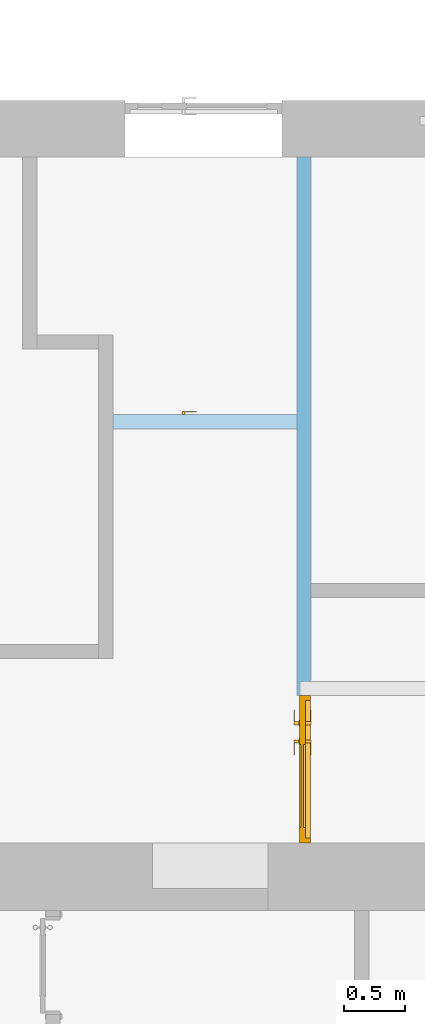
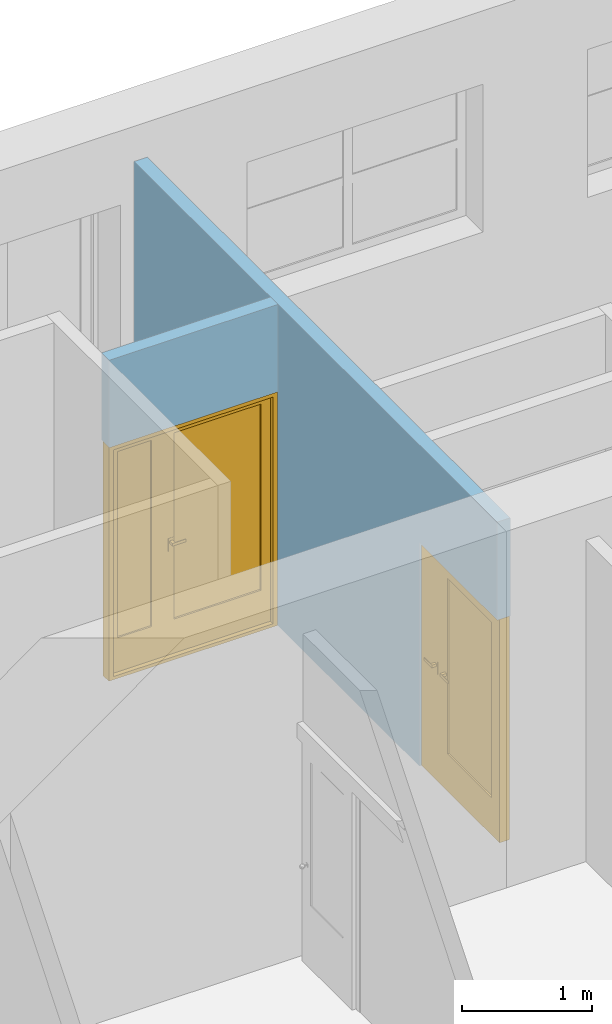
# One storey, part 37 of 49: 2 doors, 3 openings, plus 2 elements that do not belong to this part.
"""IFC2X3 building model written with IfcOpenShell, lengths in millimetres."""

from ifc_helpers import new_model, entity, si_unit, converted_unit, derived_unit, direction, frame, frame_2d, origin, place, context, subcontext, project, spatial, rectangle, extrude, faceted_brep, source, transform, mapped, material, material_list, layer, layer_set, layer_usage, type_object, type_shapes, element, fill, save


model = new_model("IFC2X3")

# Units and contexts
model_context = context("Model", 3, precision=0.01, world=origin(), true_north=direction((6.12303176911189e-17, 1.0)))
body_context = subcontext(model_context, "Body", "Model", "MODEL_VIEW")
ifc_project = project(units=[si_unit("LENGTHUNIT", "METRE", prefix="MILLI"), si_unit("AREAUNIT", "SQUARE_METRE"), si_unit("VOLUMEUNIT", "CUBIC_METRE"), converted_unit("PLANEANGLEUNIT", "DEGREE", entity("IfcRatioMeasure", 0.0174532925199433), si_unit("PLANEANGLEUNIT", "RADIAN"), dimensions=[0, 0, 0, 0, 0, 0, 0]), si_unit("MASSUNIT", "GRAM", prefix="KILO"), derived_unit("MASSDENSITYUNIT", [(si_unit("MASSUNIT", "GRAM", prefix="KILO"), 1), (si_unit("LENGTHUNIT", "METRE"), -3)]), si_unit("TIMEUNIT", "SECOND"), si_unit("FREQUENCYUNIT", "HERTZ"), si_unit("THERMODYNAMICTEMPERATUREUNIT", "DEGREE_CELSIUS"), derived_unit("THERMALTRANSMITTANCEUNIT", [(si_unit("MASSUNIT", "GRAM", prefix="KILO"), 1), (si_unit("THERMODYNAMICTEMPERATUREUNIT", "KELVIN"), -1), (si_unit("TIMEUNIT", "SECOND"), -3)]), derived_unit("VOLUMETRICFLOWRATEUNIT", [(si_unit("LENGTHUNIT", "METRE"), 3), (si_unit("TIMEUNIT", "SECOND"), -1)]), si_unit("ELECTRICCURRENTUNIT", "AMPERE"), si_unit("ELECTRICVOLTAGEUNIT", "VOLT"), si_unit("POWERUNIT", "WATT"), si_unit("FORCEUNIT", "NEWTON", prefix="KILO"), si_unit("ILLUMINANCEUNIT", "LUX"), si_unit("LUMINOUSFLUXUNIT", "LUMEN"), si_unit("LUMINOUSINTENSITYUNIT", "CANDELA"), derived_unit("USERDEFINED", [(si_unit("MASSUNIT", "GRAM", prefix="KILO"), -1), (si_unit("LENGTHUNIT", "METRE"), -2), (si_unit("TIMEUNIT", "SECOND"), 3), (si_unit("LUMINOUSFLUXUNIT", "LUMEN"), 1)]), derived_unit("LINEARVELOCITYUNIT", [(si_unit("LENGTHUNIT", "METRE"), 1), (si_unit("TIMEUNIT", "SECOND"), -1)]), si_unit("PRESSUREUNIT", "PASCAL"), derived_unit("USERDEFINED", [(si_unit("LENGTHUNIT", "METRE"), -2), (si_unit("MASSUNIT", "GRAM", prefix="KILO"), 1), (si_unit("TIMEUNIT", "SECOND"), -2)])], contexts=[model_context])

# Site, building, storey
site_placement = place(None, frame((-151.875543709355, 2715.0, 0.0)))
site = spatial("IfcSite", under=ifc_project, at=site_placement, Name="Surface", CompositionType="ELEMENT")
building_placement = place(site_placement, origin())
building = spatial("IfcBuilding", under=site, at=building_placement, CompositionType="ELEMENT")
storey_placement = place(building_placement, origin())
storey = spatial("IfcBuildingStorey", under=building, at=storey_placement, Name="1 korrus", CompositionType="ELEMENT", Elevation=3.0969999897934e-10)

# Wall, openings, door
ifc_material_1 = material(Name="__Kips GN13_tava")
ifc_layer_1 = layer(ifc_material_1, 12.5)
ifc_layer_2 = layer(ifc_material_1, 12.5)
ifc_material_2 = material(Name="__Soojustus EPS")
ifc_layer_3 = layer(ifc_material_2, 66.0)
ifc_layer_4 = layer(ifc_material_1, 12.5)
ifc_layer_5 = layer(ifc_material_1, 12.5)
ifc_layer_set = layer_set([ifc_layer_1, ifc_layer_2, ifc_layer_3, ifc_layer_4, ifc_layer_5], Name="Basic Wall:SS-3_Kipssein tava ruumide vahel")
ifc_layer_usage_1 = layer_usage(ifc_layer_set, "AXIS2", "POSITIVE", -58.0)
wall_type = type_object("IfcWallType", Name="Basic Wall:SS-3_Kipssein tava ruumide vahel", PredefinedType="STANDARD", material=ifc_layer_set)
wall_1_placement = place(storey_placement, frame((16525.485790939, 6560.0, 0.0), z_axis=(0.0, 0.0, 1.0), x_axis=(0.0, 1.0, 0.0)))
wall_1 = element("IfcWallStandardCase", 1, at=wall_1_placement, inside=storey, type_object=wall_type, material=ifc_layer_usage_1, Name="Basic Wall:SS-3_Kipssein tava ruumide vahel", ObjectType="Basic Wall:SS-3_Kipssein tava ruumide vahel", context=body_context, shape_type="SweptSolid", body=[
    extrude(rectangle(XDim=5590.0, YDim=116.0, at=frame_2d((2795.0, 6.00408611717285e-13), x_axis=(-1.0, 0.0))), origin(), (0.0, 0.0, 1.0), 3020.0),
])
opening_1_placement = place(wall_1_placement, origin())
element("IfcOpeningElement", 2, at=opening_1_placement, cuts=wall_1, Name="Basic Wall:SS-3_Kipssein tava ruumide vahel", ObjectType="Opening", context=body_context, shape_type="SweptSolid", body=[
    extrude(rectangle(XDim=2199.99999999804, YDim=116.0, at=frame_2d((0.0, 0.0), x_axis=(0.0, 1.0))), frame((3432.46321575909, 58.0, 1100.0), z_axis=(0.0, 1.0, 0.0), x_axis=(-1.0, 0.0, 0.0)), (0.0, 0.0, 1.0), 1500.0),
])
opening_2_placement = place(wall_1_placement, frame((0.0, -58.0, 0.0)))
opening_2 = element("IfcOpeningElement", 3, at=opening_2_placement, cuts=wall_1, Name="Kahepoolsed:SU-21:1", ObjectType="Opening", context=body_context, shape_type="SweptSolid", body=[
    extrude(rectangle(XDim=2099.99999999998, YDim=1200.0, at=frame_2d((1049.99999999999, 600.0), x_axis=(1.0, 0.0))), frame((0.0, 0.0, 0.0), z_axis=(0.0, 1.0, 0.0), x_axis=(0.0, 0.0, 1.0)), (0.0, 0.0, 1.0), 116.0),
])
ifc_material_3 = material(Name="_Alumiiniumprofiil - must")
ifc_material_4 = material(Name="__Uks_hele tamm")
ifc_material_5 = material(Name="EP Tavallinen lasi")
ifc_material_list_1 = material_list([ifc_material_3, ifc_material_4, ifc_material_5])
ifc_material_list_2 = material_list([ifc_material_3, ifc_material_4, ifc_material_5])
door_style_1 = type_object("IfcDoorStyle", Name="SU-21", ConstructionType="NOTDEFINED", OperationType="FOLDING_TO_RIGHT", ParameterTakesPrecedence=False, Sizeable=False, material=ifc_material_list_2)
shared_shape_1 = source(origin(), body_context, "Body", "Brep", [
    faceted_brep([(812.5, 6.0, 1100.0), (717.5, 6.0, 1100.0), (717.5, 1.0, 1100.0), (837.5, 1.0, 1100.0), (837.5, 44.0, 1100.0), (812.5, 44.0, 1100.0), (812.5, 6.0, 1075.0), (812.5, 44.0, 1075.0), (837.5, 44.0, 1075.0), (837.5, 1.0, 1075.0), (717.5, 1.0, 1075.0), (717.5, 6.0, 1075.0)], [[[0, 1, 2, 3, 4, 5]], [[6, 7, 8, 9, 10, 11]], [[5, 7, 6, 0]], [[4, 8, 7, 5]], [[3, 9, 8, 4]], [[2, 10, 9, 3]], [[1, 11, 10, 2]], [[0, 6, 11, 1]]]),
    faceted_brep([(800.0, 44.0, 1125.0), (850.0, 44.0, 1125.0), (850.0, 46.0, 1125.0), (800.0, 46.0, 1125.0), (800.0, 44.0, 1005.0), (800.0, 46.0, 1005.0), (850.0, 46.0, 1005.0), (850.0, 44.0, 1005.0)], [[[0, 1, 2, 3]], [[4, 5, 6, 7]], [[3, 5, 4, 0]], [[2, 6, 5, 3]], [[1, 7, 6, 2]], [[0, 4, 7, 1]]]),
    faceted_brep([(812.499999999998, 136.0, 1100.0), (812.499999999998, 98.0, 1100.0), (837.499999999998, 98.0, 1100.0), (837.499999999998, 141.0, 1100.0), (717.499999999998, 141.0, 1100.0), (717.499999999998, 136.0, 1100.0), (812.499999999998, 136.0, 1075.0), (717.499999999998, 136.0, 1075.0), (717.499999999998, 141.0, 1075.0), (837.499999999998, 141.0, 1075.0), (837.499999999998, 98.0, 1075.0), (812.499999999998, 98.0, 1075.0)], [[[0, 1, 2, 3, 4, 5]], [[6, 7, 8, 9, 10, 11]], [[1, 0, 6, 11]], [[2, 1, 11, 10]], [[3, 2, 10, 9]], [[4, 3, 9, 8]], [[5, 4, 8, 7]], [[0, 5, 7, 6]]]),
    faceted_brep([(800.0, 98.0, 1125.0), (800.0, 96.0, 1125.0), (850.0, 96.0, 1125.0), (850.0, 98.0, 1125.0), (800.0, 98.0, 1005.0), (850.0, 98.0, 1005.0), (850.0, 96.0, 1005.0), (800.0, 96.0, 1005.0)], [[[0, 1, 2, 3]], [[4, 5, 6, 7]], [[1, 0, 4, 7]], [[2, 1, 7, 6]], [[3, 2, 6, 5]], [[0, 3, 5, 4]]]),
    faceted_brep([(987.499999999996, 6.0, 1100.0), (987.499999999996, 44.0, 1100.0), (962.499999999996, 44.0, 1100.0), (962.499999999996, 1.0, 1100.0), (1082.5, 1.0, 1100.0), (1082.5, 6.0, 1100.0), (987.499999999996, 6.0, 1075.0), (1082.5, 6.0, 1075.0), (1082.5, 1.0, 1075.0), (962.499999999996, 1.0, 1075.0), (962.499999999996, 44.0, 1075.0), (987.499999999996, 44.0, 1075.0)], [[[0, 1, 2, 3, 4, 5]], [[6, 7, 8, 9, 10, 11]], [[1, 0, 6, 11]], [[2, 1, 11, 10]], [[3, 2, 10, 9]], [[4, 3, 9, 8]], [[5, 4, 8, 7]], [[0, 5, 7, 6]]]),
    faceted_brep([(1000.0, 44.0, 1125.0), (1000.0, 46.0, 1125.0), (950.0, 46.0, 1125.0), (950.0, 44.0, 1125.0), (1000.0, 44.0, 1005.0), (950.0, 44.0, 1005.0), (950.0, 46.0, 1005.0), (1000.0, 46.0, 1005.0)], [[[0, 1, 2, 3]], [[4, 5, 6, 7]], [[1, 0, 4, 7]], [[2, 1, 7, 6]], [[3, 2, 6, 5]], [[0, 3, 5, 4]]]),
    faceted_brep([(987.499999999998, 136.0, 1100.0), (1082.5, 136.0, 1100.0), (1082.5, 141.0, 1100.0), (962.499999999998, 141.0, 1100.0), (962.499999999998, 98.0, 1100.0), (987.499999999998, 98.0, 1100.0), (987.499999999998, 136.0, 1075.0), (987.499999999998, 98.0, 1075.0), (962.499999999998, 98.0, 1075.0), (962.499999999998, 141.0, 1075.0), (1082.5, 141.0, 1075.0), (1082.5, 136.0, 1075.0)], [[[0, 1, 2, 3, 4, 5]], [[6, 7, 8, 9, 10, 11]], [[5, 7, 6, 0]], [[4, 8, 7, 5]], [[3, 9, 8, 4]], [[2, 10, 9, 3]], [[1, 11, 10, 2]], [[0, 6, 11, 1]]]),
    faceted_brep([(1000.0, 98.0, 1125.0), (950.0, 98.0, 1125.0), (950.0, 96.0, 1125.0), (1000.0, 96.0, 1125.0), (1000.0, 98.0, 1005.0), (1000.0, 96.0, 1005.0), (950.0, 96.0, 1005.0), (950.0, 98.0, 1005.0)], [[[0, 1, 2, 3]], [[4, 5, 6, 7]], [[3, 5, 4, 0]], [[2, 6, 5, 3]], [[1, 7, 6, 2]], [[0, 4, 7, 1]]]),
    faceted_brep([(1160.0, 6.0, 30.0), (1160.0, 6.0, 0.0), (1160.0, 46.0, 0.0), (1160.0, 46.0, 20.0), (1160.0, 46.0, 30.0), (40.0, 6.0, 30.0), (40.0, 46.0, 30.0), (40.0, 46.0, 20.0), (40.0, 46.0, 0.0), (40.0, 6.0, 0.0), (25.0, 46.0, 0.0), (25.0, 96.0, 0.0), (1175.0, 96.0, 0.0), (1175.0, 46.0, 0.0), (1175.0, 96.0, 20.0), (1175.0, 46.0, 20.0), (25.0, 96.0, 20.0), (25.0, 46.0, 20.0)], [[[0, 1, 2, 3, 4]], [[5, 6, 7, 8, 9]], [[1, 0, 5, 9]], [[2, 1, 9, 8, 10, 11, 12, 13]], [[6, 4, 3, 7]], [[0, 4, 6, 5]], [[14, 15, 13, 12]], [[16, 11, 10, 17]], [[15, 14, 16, 17, 7, 3]], [[13, 15, 3, 2]], [[14, 12, 11, 16]], [[17, 10, 8, 7]]]),
    faceted_brep([(1200.0, 6.0, 0.0), (1160.0, 6.0, 0.0), (1160.0, 46.0, 0.0), (1175.0, 46.0, 0.0), (1175.0, 96.0, 0.0), (1200.0, 96.0, 0.0), (1200.0, 6.0, 2100.0), (0.0, 6.0, 2100.0), (0.0, 6.0, 0.0), (40.0, 6.0, 0.0), (40.0, 6.0, 2060.0), (1160.0, 6.0, 2060.0), (1160.0, 46.0, 2060.0), (40.0, 46.0, 2060.0), (40.0, 46.0, 0.0), (25.0, 46.0, 0.0), (25.0, 46.0, 2075.0), (1175.0, 46.0, 2075.0), (1175.0, 96.0, 2075.0), (25.0, 96.0, 2075.0), (25.0, 96.0, 0.0), (0.0, 96.0, 0.0), (0.0, 96.0, 2100.0), (1200.0, 96.0, 2100.0)], [[[0, 1, 2, 3, 4, 5]], [[1, 0, 6, 7, 8, 9, 10, 11]], [[2, 1, 11, 12]], [[3, 2, 12, 13, 14, 15, 16, 17]], [[4, 3, 17, 18]], [[5, 4, 18, 19, 20, 21, 22, 23]], [[0, 5, 23, 6]], [[8, 7, 22, 21]], [[9, 8, 21, 20, 15, 14]], [[10, 9, 14, 13]], [[16, 15, 20, 19]], [[11, 10, 13, 12]], [[17, 16, 19, 18]], [[7, 6, 23, 22]]]),
    faceted_brep([(1049.0, 96.0, 2000.0), (1049.0, 46.0, 2000.0), (1049.0, 46.0, 1990.0), (1049.0, 96.0, 1990.0), (1050.0, 46.0, 1990.0), (1050.0, 96.0, 1990.0), (1050.0, 46.0, 2000.0), (1050.0, 96.0, 2000.0), (1175.0, 46.0, 2075.0), (900.0, 46.0, 2075.0), (900.0, 46.0, 20.0), (1175.0, 46.0, 20.0), (1175.0, 96.0, 2075.0), (1175.0, 96.0, 20.0), (900.0, 96.0, 20.0), (900.0, 96.0, 2075.0)], [[[0, 1, 2, 3]], [[3, 2, 4, 5]], [[5, 4, 6, 7]], [[1, 0, 7, 6]], [[2, 1, 6, 4], [8, 9, 10, 11]], [[0, 3, 5, 7], [12, 13, 14, 15]], [[9, 8, 12, 15]], [[10, 9, 15, 14]], [[11, 10, 14, 13]], [[8, 11, 13, 12]]], outer=[[True], [True], [True], [True], [False, True], [False, True], [True], [True], [True], [True]]),
    faceted_brep([(125.0, 61.0, 350.0), (800.0, 61.0, 350.0), (800.0, 61.0, 2000.0), (125.0, 61.0, 2000.0), (125.0, 81.0, 350.0), (125.0, 81.0, 2000.0), (800.0, 81.0, 2000.0), (800.0, 81.0, 350.0)], [[[0, 1, 2, 3]], [[4, 5, 6, 7]], [[1, 0, 4, 7]], [[2, 1, 7, 6]], [[3, 2, 6, 5]], [[0, 3, 5, 4]]]),
    faceted_brep([(900.0, 46.0, 2075.0), (25.0, 46.0, 2075.0), (25.0, 46.0, 20.0), (900.0, 46.0, 20.0), (125.0, 46.0, 350.0), (125.0, 46.0, 2000.0), (800.0, 46.0, 2000.0), (800.0, 46.0, 350.0), (900.0, 96.0, 2075.0), (900.0, 96.0, 20.0), (25.0, 96.0, 20.0), (25.0, 96.0, 2075.0), (125.0, 96.0, 2000.0), (125.0, 96.0, 350.0), (800.0, 96.0, 350.0), (800.0, 96.0, 2000.0)], [[[0, 1, 2, 3], [4, 5, 6, 7]], [[8, 9, 10, 11], [12, 13, 14, 15]], [[1, 0, 8, 11]], [[2, 1, 11, 10]], [[3, 2, 10, 9]], [[0, 3, 9, 8]], [[12, 5, 4, 13]], [[13, 4, 7, 14]], [[14, 7, 6, 15]], [[5, 12, 15, 6]]]),
])
type_shapes(door_style_1, [shared_shape_1])
door_1_placement = place(opening_2_placement, origin())
door_1 = element("IfcDoor", 4, at=door_1_placement, inside=storey, type_object=door_style_1, material=ifc_material_list_1, Name="Kahepoolsed:SU-21", ObjectType="SU-21", OverallHeight=2099.99999999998, OverallWidth=1200.0, context=body_context, shape_type="MappedRepresentation", body=[
    mapped(shared_shape_1, transform((0.0, 0.0, 0.0), scale=1.0)),
])
fill(opening_2, door_1)

# Wall, opening, door
ifc_layer_usage_2 = layer_usage(ifc_layer_set, "AXIS2", "NEGATIVE", 58.0)
wall_2_placement = place(storey_placement, frame((14967.485790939, 9992.46321575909, 2200.0)))
wall_2 = element("IfcWallStandardCase", 5, at=wall_2_placement, inside=storey, type_object=wall_type, material=ifc_layer_usage_2, Name="Basic Wall:SS-3_Kipssein tava ruumide vahel", ObjectType="Basic Wall:SS-3_Kipssein tava ruumide vahel", context=body_context, shape_type="SweptSolid", body=[
    extrude(rectangle(XDim=1500.0, YDim=116.0, at=frame_2d((749.999999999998, 0.0), x_axis=(-1.0, 0.0))), origin(), (0.0, 0.0, 1.0), 820.000000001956),
])
opening_3_placement = place(wall_2_placement, frame((0.0, -58.0, -2200.0)))
opening_3 = element("IfcOpeningElement", 6, at=opening_3_placement, cuts=wall_2, Name="Kahepoolsed:SU-14:1", ObjectType="Opening", context=body_context, shape_type="SweptSolid", body=[
    extrude(rectangle(XDim=2199.99999999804, YDim=1500.0, at=frame_2d((1099.99999999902, 750.0), x_axis=(1.0, 0.0))), frame((0.0, 0.0, 0.0), z_axis=(0.0, 1.0, 0.0), x_axis=(0.0, 0.0, 1.0)), (0.0, 0.0, 1.0), 116.0),
])
ifc_material_list_3 = material_list([ifc_material_3, ifc_material_4, ifc_material_5])
ifc_material_list_4 = material_list([ifc_material_3, ifc_material_4, ifc_material_5])
door_style_2 = type_object("IfcDoorStyle", Name="SU-14", ConstructionType="NOTDEFINED", OperationType="FOLDING_TO_RIGHT", ParameterTakesPrecedence=False, Sizeable=False, material=ifc_material_list_4)
shared_shape_2 = source(origin(), body_context, "Body", "Brep", [
    faceted_brep([(520.260051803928, 6.0, 1100.0), (520.260051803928, 44.0, 1100.0), (495.260051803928, 44.0, 1100.0), (495.260051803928, 1.0, 1100.0), (615.260051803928, 1.0, 1100.0), (615.260051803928, 6.0, 1100.0), (520.260051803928, 6.0, 1075.0), (615.260051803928, 6.0, 1075.0), (615.260051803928, 1.0, 1075.0), (495.260051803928, 1.0, 1075.0), (495.260051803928, 44.0, 1075.0), (520.260051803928, 44.0, 1075.0)], [[[0, 1, 2, 3, 4, 5]], [[6, 7, 8, 9, 10, 11]], [[1, 0, 6, 11]], [[2, 1, 11, 10]], [[3, 2, 10, 9]], [[4, 3, 9, 8]], [[5, 4, 8, 7]], [[0, 5, 7, 6]]]),
    faceted_brep([(532.760051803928, 44.0, 1125.0), (532.760051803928, 46.0, 1125.0), (482.760051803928, 46.0, 1125.0), (482.760051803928, 44.0, 1125.0), (532.760051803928, 44.0, 1005.0), (482.760051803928, 44.0, 1005.0), (482.760051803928, 46.0, 1005.0), (532.760051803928, 46.0, 1005.0)], [[[0, 1, 2, 3]], [[4, 5, 6, 7]], [[1, 0, 4, 7]], [[2, 1, 7, 6]], [[3, 2, 6, 5]], [[0, 3, 5, 4]]]),
    faceted_brep([(520.26005180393, 136.0, 1100.0), (615.26005180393, 136.0, 1100.0), (615.26005180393, 141.0, 1100.0), (495.26005180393, 141.0, 1100.0), (495.26005180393, 98.0, 1100.0), (520.26005180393, 98.0, 1100.0), (520.26005180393, 136.0, 1075.0), (520.26005180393, 98.0, 1075.0), (495.26005180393, 98.0, 1075.0), (495.26005180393, 141.0, 1075.0), (615.26005180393, 141.0, 1075.0), (615.26005180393, 136.0, 1075.0)], [[[0, 1, 2, 3, 4, 5]], [[6, 7, 8, 9, 10, 11]], [[5, 7, 6, 0]], [[4, 8, 7, 5]], [[3, 9, 8, 4]], [[2, 10, 9, 3]], [[1, 11, 10, 2]], [[0, 6, 11, 1]]]),
    faceted_brep([(532.76005180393, 98.0, 1125.0), (482.76005180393, 98.0, 1125.0), (482.76005180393, 96.0, 1125.0), (532.76005180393, 96.0, 1125.0), (532.76005180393, 98.0, 1005.0), (532.76005180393, 96.0, 1005.0), (482.76005180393, 96.0, 1005.0), (482.76005180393, 98.0, 1005.0)], [[[0, 1, 2, 3]], [[4, 5, 6, 7]], [[3, 5, 4, 0]], [[2, 6, 5, 3]], [[1, 7, 6, 2]], [[0, 4, 7, 1]]]),
    faceted_brep([(-27.2399481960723, 6.0, 30.0), (-27.2399481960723, 46.0, 30.0), (-27.2399481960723, 46.0, 20.0), (-27.2399481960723, 46.0, 0.0), (-27.2399481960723, 6.0, 0.0), (1392.76005180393, 6.0, 30.0), (1392.76005180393, 6.0, 0.0), (1392.76005180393, 46.0, 0.0), (1392.76005180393, 46.0, 20.0), (1392.76005180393, 46.0, 30.0), (-42.2399481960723, 46.0, 0.0), (-42.2399481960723, 96.0, 0.0), (1407.76005180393, 96.0, 0.0), (1407.76005180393, 46.0, 0.0), (-42.2399481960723, 96.0, 20.0), (-42.2399481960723, 46.0, 20.0), (1407.76005180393, 96.0, 20.0), (1407.76005180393, 46.0, 20.0)], [[[0, 1, 2, 3, 4]], [[5, 6, 7, 8, 9]], [[4, 6, 5, 0]], [[3, 10, 11, 12, 13, 7, 6, 4]], [[9, 8, 2, 1]], [[0, 5, 9, 1]], [[14, 11, 10, 15]], [[16, 17, 13, 12]], [[15, 2, 8, 17, 16, 14]], [[10, 3, 2, 15]], [[14, 16, 12, 11]], [[17, 8, 7, 13]]]),
    faceted_brep([(-67.2399481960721, 6.0, 0.0), (-67.2399481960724, 96.0, 0.0), (-42.2399481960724, 96.0, 0.0), (-42.2399481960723, 46.0, 0.0), (-27.2399481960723, 46.0, 0.0), (-27.2399481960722, 6.0, 0.0), (-27.2399481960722, 6.0, 2160.0), (1392.76005180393, 6.0, 2160.0), (1392.76005180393, 6.0, 0.0), (1432.76005180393, 6.0, 0.0), (1432.76005180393, 6.0, 2200.0), (-67.2399481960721, 6.0, 2200.0), (-27.2399481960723, 46.0, 2160.0), (-42.2399481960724, 46.0, 2175.0), (1407.76005180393, 46.0, 2175.0), (1407.76005180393, 46.0, 0.0), (1392.76005180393, 46.0, 0.0), (1392.76005180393, 46.0, 2160.0), (-42.2399481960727, 96.0, 2175.0), (-67.2399481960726, 96.0, 2200.0), (1432.76005180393, 96.0, 2200.0), (1432.76005180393, 96.0, 0.0), (1407.76005180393, 96.0, 0.0), (1407.76005180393, 96.0, 2175.0)], [[[0, 1, 2, 3, 4, 5]], [[5, 6, 7, 8, 9, 10, 11, 0]], [[4, 12, 6, 5]], [[3, 13, 14, 15, 16, 17, 12, 4]], [[2, 18, 13, 3]], [[1, 19, 20, 21, 22, 23, 18, 2]], [[0, 11, 19, 1]], [[9, 21, 20, 10]], [[8, 16, 15, 22, 21, 9]], [[7, 17, 16, 8]], [[14, 23, 22, 15]], [[6, 12, 17, 7]], [[13, 18, 23, 14]], [[10, 20, 19, 11]]]),
    faceted_brep([(1307.76005180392, 61.0, 350.0), (1307.76005180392, 61.0, 2100.0), (532.760051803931, 61.0, 2100.0), (532.760051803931, 61.0, 350.0), (1307.76005180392, 81.0, 350.0), (532.760051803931, 81.0, 350.0), (532.760051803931, 81.0, 2100.0), (1307.76005180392, 81.0, 2100.0)], [[[0, 1, 2, 3]], [[4, 5, 6, 7]], [[3, 5, 4, 0]], [[2, 6, 5, 3]], [[1, 7, 6, 2]], [[0, 4, 7, 1]]]),
    faceted_brep([(332.760051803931, 61.0, 350.0), (332.760051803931, 61.0, 2100.0), (32.7600518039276, 61.0, 2100.0), (32.7600518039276, 61.0, 350.0), (332.760051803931, 81.0, 350.0), (32.7600518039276, 81.0, 350.0), (32.7600518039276, 81.0, 2100.0), (332.760051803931, 81.0, 2100.0)], [[[0, 1, 2, 3]], [[4, 5, 6, 7]], [[3, 5, 4, 0]], [[2, 6, 5, 3]], [[1, 7, 6, 2]], [[0, 4, 7, 1]]]),
    faceted_brep([(432.760051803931, 46.0, 2175.0), (432.760051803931, 46.0, 20.0), (1407.76005180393, 46.0, 20.0), (1407.76005180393, 46.0, 2175.0), (1307.76005180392, 46.0, 350.0), (532.760051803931, 46.0, 350.0), (532.760051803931, 46.0, 2100.0), (1307.76005180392, 46.0, 2100.0), (432.760051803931, 96.0, 2175.0), (1407.76005180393, 96.0, 2175.0), (1407.76005180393, 96.0, 20.0), (432.760051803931, 96.0, 20.0), (1307.76005180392, 96.0, 2100.0), (532.760051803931, 96.0, 2100.0), (532.760051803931, 96.0, 350.0), (1307.76005180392, 96.0, 350.0)], [[[0, 1, 2, 3], [4, 5, 6, 7]], [[8, 9, 10, 11], [12, 13, 14, 15]], [[3, 9, 8, 0]], [[2, 10, 9, 3]], [[1, 11, 10, 2]], [[0, 8, 11, 1]], [[12, 15, 4, 7]], [[15, 14, 5, 4]], [[14, 13, 6, 5]], [[7, 6, 13, 12]]]),
    faceted_brep([(432.760051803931, 46.0, 2175.0), (-42.2399481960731, 46.0, 2175.0), (-42.2399481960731, 46.0, 20.0), (432.760051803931, 46.0, 20.0), (332.760051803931, 46.0, 350.0), (32.7600518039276, 46.0, 350.0), (32.7600518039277, 46.0, 2100.0), (332.760051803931, 46.0, 2100.0), (432.760051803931, 96.0, 2175.0), (432.760051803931, 96.0, 20.0), (-42.239948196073, 96.0, 20.0), (-42.239948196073, 96.0, 2175.0), (332.760051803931, 96.0, 2100.0), (32.7600518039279, 96.0, 2100.0), (32.7600518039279, 96.0, 350.0), (332.760051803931, 96.0, 350.0)], [[[0, 1, 2, 3], [4, 5, 6, 7]], [[8, 9, 10, 11], [12, 13, 14, 15]], [[3, 9, 8, 0]], [[2, 10, 9, 3]], [[1, 11, 10, 2]], [[0, 8, 11, 1]], [[12, 15, 4, 7]], [[15, 14, 5, 4]], [[14, 13, 6, 5]], [[7, 6, 13, 12]]]),
])
type_shapes(door_style_2, [shared_shape_2])
door_2_placement = place(opening_3_placement, frame((67.2399481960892, 0.0, 0.0)))
door_2 = element("IfcDoor", 7, at=door_2_placement, inside=storey, type_object=door_style_2, material=ifc_material_list_3, Name="Kahepoolsed:SU-14", ObjectType="SU-14", OverallHeight=2199.99999999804, OverallWidth=1500.0, context=body_context, shape_type="MappedRepresentation", body=[
    mapped(shared_shape_2, transform((0.0, 0.0, 0.0), scale=1.0)),
])
fill(opening_3, door_2)

save(model, "model.ifc")
